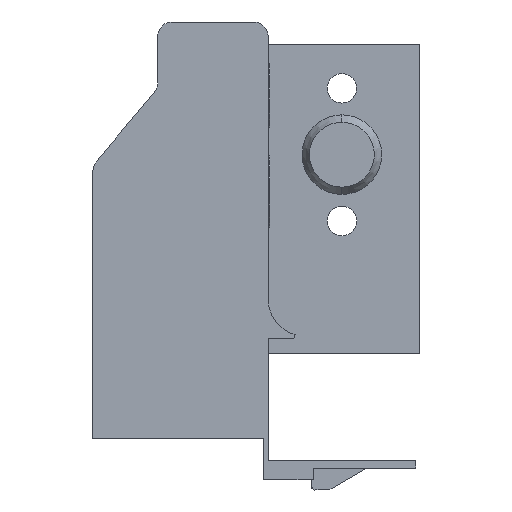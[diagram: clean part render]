
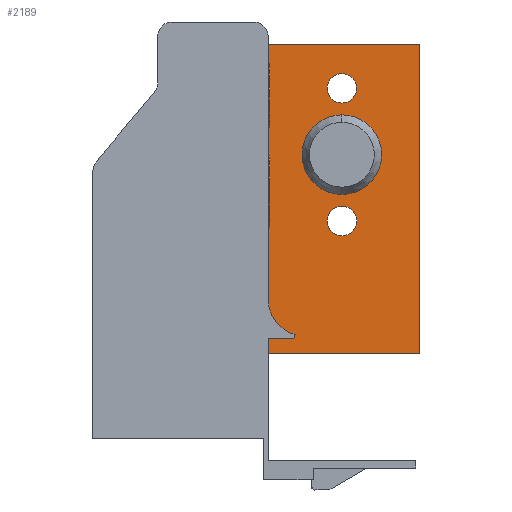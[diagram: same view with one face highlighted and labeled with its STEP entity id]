
A CAD part, front view. The second image highlights one B-rep face of the part: STEP entity #2189.
In plain terms, the highlighted planar face has unit normal (0, -1, 0).
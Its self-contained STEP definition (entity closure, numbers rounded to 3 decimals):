
#123 = PLANE ( 'NONE',  #954 ) ;
#126 = CARTESIAN_POINT ( 'NONE',  ( 21.1, 547.2, 20. ) ) ;
#131 = DIRECTION ( 'NONE',  ( 0., -1., 0. ) ) ;
#132 = DIRECTION ( 'NONE',  ( -1., 0., 0. ) ) ;
#326 = EDGE_LOOP ( 'NONE', ( #778, #695, #668, #552, #789, #726 ) ) ;
#351 = VECTOR ( 'NONE', #1702, 1000. ) ;
#365 = LINE ( 'NONE', #1707, #512 ) ;
#393 = EDGE_LOOP ( 'NONE', ( #738, #502 ) ) ;
#420 = VECTOR ( 'NONE', #1771, 1000. ) ;
#449 = ORIENTED_EDGE ( 'NONE', *, *, #1217, .F. ) ;
#478 = LINE ( 'NONE', #1768, #420 ) ;
#502 = ORIENTED_EDGE ( 'NONE', *, *, #983, .T. ) ;
#512 = VECTOR ( 'NONE', #1718, 1000. ) ;
#540 = EDGE_LOOP ( 'NONE', ( #712, #685 ) ) ;
#552 = ORIENTED_EDGE ( 'NONE', *, *, #1142, .T. ) ;
#603 = EDGE_LOOP ( 'NONE', ( #656, #449 ) ) ;
#625 = CIRCLE ( 'NONE', #1214, 5.4 ) ;
#645 = LINE ( 'NONE', #1690, #351 ) ;
#656 = ORIENTED_EDGE ( 'NONE', *, *, #944, .F. ) ;
#668 = ORIENTED_EDGE ( 'NONE', *, *, #920, .F. ) ;
#685 = ORIENTED_EDGE ( 'NONE', *, *, #1180, .F. ) ;
#695 = ORIENTED_EDGE ( 'NONE', *, *, #1148, .F. ) ;
#712 = ORIENTED_EDGE ( 'NONE', *, *, #1102, .F. ) ;
#726 = ORIENTED_EDGE ( 'NONE', *, *, #964, .F. ) ;
#738 = ORIENTED_EDGE ( 'NONE', *, *, #911, .T. ) ;
#752 = CIRCLE ( 'NONE', #1096, 2. ) ;
#778 = ORIENTED_EDGE ( 'NONE', *, *, #931, .T. ) ;
#789 = ORIENTED_EDGE ( 'NONE', *, *, #1086, .T. ) ;
#825 = CIRCLE ( 'NONE', #1137, 5.4 ) ;
#879 = CARTESIAN_POINT ( 'NONE',  ( 21.5, 547.2, -2. ) ) ;
#883 = CARTESIAN_POINT ( 'NONE',  ( 42., 547.2, 40. ) ) ;
#885 = CARTESIAN_POINT ( 'NONE',  ( 42., 547.2, -2. ) ) ;
#887 = CARTESIAN_POINT ( 'NONE',  ( 21.1, 547.2, -0.405 ) ) ;
#889 = CARTESIAN_POINT ( 'NONE',  ( 21.5, 547.2, -0.405 ) ) ;
#890 = CARTESIAN_POINT ( 'NONE',  ( 21.1, 547.2, 40. ) ) ;
#911 = EDGE_CURVE ( 'NONE', #1555, #1582, #625, .T. ) ;
#920 = EDGE_CURVE ( 'NONE', #1657, #1663, #645, .T. ) ;
#931 = EDGE_CURVE ( 'NONE', #1655, #1653, #365, .T. ) ;
#944 = EDGE_CURVE ( 'NONE', #1554, #1564, #752, .T. ) ;
#954 = AXIS2_PLACEMENT_3D ( 'NONE', #126, #131, #132 ) ;
#964 = EDGE_CURVE ( 'NONE', #1655, #1652, #478, .T. ) ;
#983 = EDGE_CURVE ( 'NONE', #1582, #1555, #825, .T. ) ;
#1038 = AXIS2_PLACEMENT_3D ( 'NONE', #2063, #2068, #2069 ) ;
#1075 = AXIS2_PLACEMENT_3D ( 'NONE', #1956, #1958, #1959 ) ;
#1086 = EDGE_CURVE ( 'NONE', #1659, #1652, #1311, .T. ) ;
#1096 = AXIS2_PLACEMENT_3D ( 'NONE', #1741, #1742, #1743 ) ;
#1102 = EDGE_CURVE ( 'NONE', #1560, #1575, #1336, .T. ) ;
#1137 = AXIS2_PLACEMENT_3D ( 'NONE', #1795, #1797, #1798 ) ;
#1142 = EDGE_CURVE ( 'NONE', #1657, #1659, #1367, .T. ) ;
#1143 = AXIS2_PLACEMENT_3D ( 'NONE', #2080, #2112, #2113 ) ;
#1148 = EDGE_CURVE ( 'NONE', #1663, #1653, #1378, .T. ) ;
#1180 = EDGE_CURVE ( 'NONE', #1575, #1560, #1414, .T. ) ;
#1214 = AXIS2_PLACEMENT_3D ( 'NONE', #1693, #1694, #1695 ) ;
#1217 = EDGE_CURVE ( 'NONE', #1564, #1554, #1449, .T. ) ;
#1311 = LINE ( 'NONE', #1932, #1318 ) ;
#1318 = VECTOR ( 'NONE', #1935, 1000. ) ;
#1336 = CIRCLE ( 'NONE', #1075, 2. ) ;
#1361 = VECTOR ( 'NONE', #2013, 1000. ) ;
#1367 = LINE ( 'NONE', #2012, #1361 ) ;
#1378 = LINE ( 'NONE', #2022, #1379 ) ;
#1379 = VECTOR ( 'NONE', #2023, 1000. ) ;
#1414 = CIRCLE ( 'NONE', #1038, 2. ) ;
#1449 = CIRCLE ( 'NONE', #1143, 2. ) ;
#1500 = FACE_OUTER_BOUND ( 'NONE', #326, .T. ) ;
#1504 = FACE_BOUND ( 'NONE', #393, .T. ) ;
#1506 = FACE_BOUND ( 'NONE', #540, .T. ) ;
#1508 = FACE_BOUND ( 'NONE', #603, .T. ) ;
#1554 = VERTEX_POINT ( 'NONE', #2110 ) ;
#1555 = VERTEX_POINT ( 'NONE', #2111 ) ;
#1560 = VERTEX_POINT ( 'NONE', #2095 ) ;
#1564 = VERTEX_POINT ( 'NONE', #2121 ) ;
#1575 = VERTEX_POINT ( 'NONE', #2132 ) ;
#1582 = VERTEX_POINT ( 'NONE', #2139 ) ;
#1652 = VERTEX_POINT ( 'NONE', #890 ) ;
#1653 = VERTEX_POINT ( 'NONE', #889 ) ;
#1655 = VERTEX_POINT ( 'NONE', #887 ) ;
#1657 = VERTEX_POINT ( 'NONE', #885 ) ;
#1659 = VERTEX_POINT ( 'NONE', #883 ) ;
#1663 = VERTEX_POINT ( 'NONE', #879 ) ;
#1690 = CARTESIAN_POINT ( 'NONE',  ( 21.5, 547.2, -2. ) ) ;
#1693 = CARTESIAN_POINT ( 'NONE',  ( 31.5, 547.2, 25. ) ) ;
#1694 = DIRECTION ( 'NONE',  ( 0., 1., 0. ) ) ;
#1695 = DIRECTION ( 'NONE',  ( -1., 0., 0. ) ) ;
#1702 = DIRECTION ( 'NONE',  ( -1., 0., 0. ) ) ;
#1707 = CARTESIAN_POINT ( 'NONE',  ( 21.1, 547.2, -0.405 ) ) ;
#1718 = DIRECTION ( 'NONE',  ( 1., 0., 0. ) ) ;
#1741 = CARTESIAN_POINT ( 'NONE',  ( 31.5, 547.2, 34. ) ) ;
#1742 = DIRECTION ( 'NONE',  ( 0., -1., 0. ) ) ;
#1743 = DIRECTION ( 'NONE',  ( -1., 0., 0. ) ) ;
#1768 = CARTESIAN_POINT ( 'NONE',  ( 21.1, 547.2, 20. ) ) ;
#1771 = DIRECTION ( 'NONE',  ( 0., 0., 1. ) ) ;
#1795 = CARTESIAN_POINT ( 'NONE',  ( 31.5, 547.2, 25. ) ) ;
#1797 = DIRECTION ( 'NONE',  ( 0., 1., 0. ) ) ;
#1798 = DIRECTION ( 'NONE',  ( -1., 0., 0. ) ) ;
#1932 = CARTESIAN_POINT ( 'NONE',  ( 21.1, 547.2, 40. ) ) ;
#1935 = DIRECTION ( 'NONE',  ( -1., 0., 0. ) ) ;
#1956 = CARTESIAN_POINT ( 'NONE',  ( 31.5, 547.2, 16. ) ) ;
#1958 = DIRECTION ( 'NONE',  ( 0., -1., 0. ) ) ;
#1959 = DIRECTION ( 'NONE',  ( -1., 0., 0. ) ) ;
#2012 = CARTESIAN_POINT ( 'NONE',  ( 42., 547.2, 20. ) ) ;
#2013 = DIRECTION ( 'NONE',  ( 0., 0., 1. ) ) ;
#2022 = CARTESIAN_POINT ( 'NONE',  ( 21.5, 547.2, -64.538 ) ) ;
#2023 = DIRECTION ( 'NONE',  ( 0., 0., 1. ) ) ;
#2063 = CARTESIAN_POINT ( 'NONE',  ( 31.5, 547.2, 16. ) ) ;
#2068 = DIRECTION ( 'NONE',  ( 0., -1., 0. ) ) ;
#2069 = DIRECTION ( 'NONE',  ( -1., 0., 0. ) ) ;
#2080 = CARTESIAN_POINT ( 'NONE',  ( 31.5, 547.2, 34. ) ) ;
#2095 = CARTESIAN_POINT ( 'NONE',  ( 33.5, 547.2, 16. ) ) ;
#2110 = CARTESIAN_POINT ( 'NONE',  ( 33.5, 547.2, 34. ) ) ;
#2111 = CARTESIAN_POINT ( 'NONE',  ( 31.5, 547.2, 30.4 ) ) ;
#2112 = DIRECTION ( 'NONE',  ( 0., -1., 0. ) ) ;
#2113 = DIRECTION ( 'NONE',  ( -1., 0., 0. ) ) ;
#2121 = CARTESIAN_POINT ( 'NONE',  ( 29.5, 547.2, 34. ) ) ;
#2132 = CARTESIAN_POINT ( 'NONE',  ( 29.5, 547.2, 16. ) ) ;
#2139 = CARTESIAN_POINT ( 'NONE',  ( 31.5, 547.2, 19.6 ) ) ;
#2189 = ADVANCED_FACE ( 'NONE', ( #1500, #1504, #1506, #1508 ), #123, .T. ) ;
